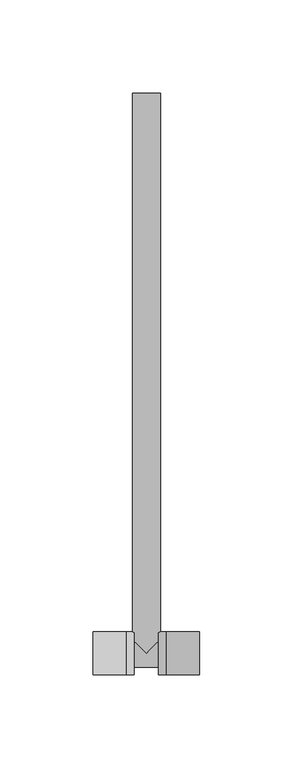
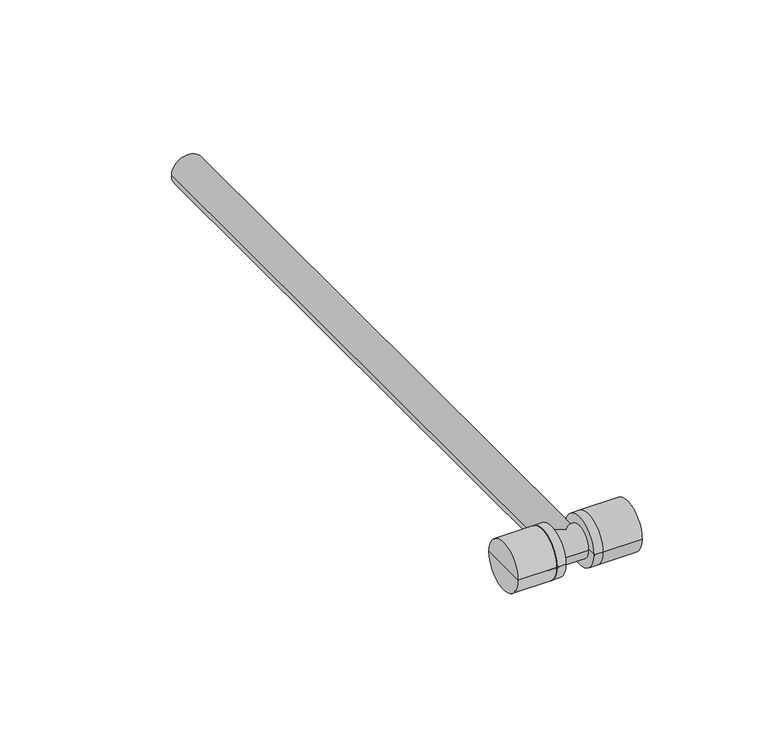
"""IFC4 building model written with IfcOpenShell, lengths in millimetres: pipe fitting geometry, KAN-therm Push 18x2 trójnik z rurą Cu15 L=300 : KAN-therm Push 18x2 trójnik z rurą Cu15 L=300."""

from ifc_helpers import new_model, si_unit, frame, origin, place, context, project, spatial, circle_curve, ellipse_curve, source, transform, mapped, element, save
from ifc_brep_helpers import plane_surface, cylinder_surface, advanced_brep


def pipe_fitting_58463357(model_context):
    return source(origin(), model_context, "Body", "AdvancedBrep", [
        advanced_brep(
        [(-10.5, -11.5, 0.0), (-10.5, 0.0, 0.0), (-10.5, 11.5, 0.0), (-6.5, -11.5, 0.0), (-6.5, 11.5, 0.0), (-6.5, 0.0, 0.0)],
        [
            (0, 1),
            (1, 2),
            (2, 0, circle_curve(frame((-10.5, 0.0, 0.0), z_axis=(-1.0, 0.0, 0.0), x_axis=(0.0, 1.0, 0.0)), 11.5)),
            (0, 2, circle_curve(frame((-10.5, 0.0, 0.0), z_axis=(-1.0, 0.0, 0.0), x_axis=(0.0, 1.0, 0.0)), 11.5)),
            (3, 0),
            (2, 4),
            (4, 3, circle_curve(frame((-6.5, 0.0, 0.0), z_axis=(-1.0, 0.0, 0.0), x_axis=(0.0, 1.0, 0.0)), 11.5)),
            (3, 4, circle_curve(frame((-6.5, 0.0, 0.0), z_axis=(-1.0, 0.0, 0.0), x_axis=(0.0, 1.0, 0.0)), 11.5)),
            (5, 3),
            (4, 5),
        ],
        [
            plane_surface(frame((-10.5, 0.0, 0.0), z_axis=(-1.0, 0.0, 0.0), x_axis=(0.0, 1.0, 0.0))),
            cylinder_surface(frame((-2005.5, 0.0, 0.0), z_axis=(1.0, 0.0, 0.0), x_axis=(0.0, 1.0, 0.0)), 11.5),
            plane_surface(frame((-6.5, 0.0, 0.0), z_axis=(1.0, 0.0, 0.0), x_axis=(0.0, 1.0, 0.0))),
        ],
        [
            (0, [[1, 2, 3]]),
            (0, [[-2, -1, 4]]),
            (1, [[5, -3, 6, 7]]),
            (1, [[-6, -4, -5, 8]]),
            (2, [[9, -7, 10]]),
            (2, [[-10, -8, -9]]),
        ],
    ),
        advanced_brep(
        [(-28.5, -11.5, 0.0), (-28.5, 0.0, 0.0), (-28.5, 11.5, 0.0), (-10.5, -11.5, 0.0), (-10.5, 11.5, 0.0), (-10.5, 0.0, 0.0)],
        [
            (0, 1),
            (1, 2),
            (2, 0, circle_curve(frame((-28.5, 0.0, 0.0), z_axis=(-1.0, 0.0, 0.0), x_axis=(0.0, 1.0, 0.0)), 11.5)),
            (0, 2, circle_curve(frame((-28.5, 0.0, 0.0), z_axis=(-1.0, 0.0, 0.0), x_axis=(0.0, 1.0, 0.0)), 11.5)),
            (3, 0),
            (2, 4),
            (4, 3, circle_curve(frame((-10.5, 0.0, 0.0), z_axis=(-1.0, 0.0, 0.0), x_axis=(0.0, 1.0, 0.0)), 11.5)),
            (3, 4, circle_curve(frame((-10.5, 0.0, 0.0), z_axis=(-1.0, 0.0, 0.0), x_axis=(0.0, 1.0, 0.0)), 11.5)),
            (5, 3),
            (4, 5),
        ],
        [
            plane_surface(frame((-28.5, 0.0, 0.0), z_axis=(-1.0, 0.0, 0.0), x_axis=(0.0, 1.0, 0.0))),
            cylinder_surface(frame((-2005.5, 0.0, 0.0), z_axis=(1.0, 0.0, 0.0), x_axis=(0.0, 1.0, 0.0)), 11.5),
            plane_surface(frame((-10.5, 0.0, 0.0), z_axis=(1.0, 0.0, 0.0), x_axis=(0.0, 1.0, 0.0))),
        ],
        [
            (0, [[1, 2, 3]]),
            (0, [[-2, -1, 4]]),
            (1, [[5, -3, 6, 7]]),
            (1, [[-6, -4, -5, 8]]),
            (2, [[9, -7, 10]]),
            (2, [[-10, -8, -9]]),
        ],
    ),
        advanced_brep(
        [(10.5, -11.5, 0.0), (10.5, 11.5, 0.0), (10.5, 0.0, 0.0), (6.5, -11.5, 0.0), (6.5, 11.5, 0.0), (6.5, 0.0, 0.0)],
        [
            (0, 1, circle_curve(frame((10.5, 0.0, 0.0), z_axis=(1.0, 0.0, 0.0), x_axis=(0.0, 1.0, 0.0)), 11.5)),
            (1, 2),
            (2, 0),
            (1, 0, circle_curve(frame((10.5, 0.0, 0.0), z_axis=(1.0, 0.0, 0.0), x_axis=(0.0, 1.0, 0.0)), 11.5)),
            (3, 4, circle_curve(frame((6.5, 0.0, 0.0), z_axis=(1.0, 0.0, 0.0), x_axis=(0.0, 1.0, 0.0)), 11.5)),
            (4, 1),
            (0, 3),
            (4, 3, circle_curve(frame((6.5, 0.0, 0.0), z_axis=(1.0, 0.0, 0.0), x_axis=(0.0, 1.0, 0.0)), 11.5)),
            (5, 4),
            (3, 5),
        ],
        [
            plane_surface(frame((10.5, 0.0, 0.0), z_axis=(1.0, 0.0, 0.0), x_axis=(0.0, 1.0, 0.0))),
            cylinder_surface(frame((2005.5, 0.0, 0.0), z_axis=(-1.0, 0.0, 0.0), x_axis=(0.0, 1.0, 0.0)), 11.5),
            plane_surface(frame((6.5, 0.0, 0.0), z_axis=(-1.0, 0.0, 0.0), x_axis=(0.0, 1.0, 0.0))),
        ],
        [
            (0, [[1, 2, 3]]),
            (0, [[4, -3, -2]]),
            (1, [[5, 6, -1, 7]]),
            (1, [[8, -7, -4, -6]]),
            (2, [[9, -5, 10]]),
            (2, [[-10, -8, -9]]),
        ],
    ),
        advanced_brep(
        [(28.5, -11.5, 0.0), (28.5, 11.5, 0.0), (28.5, 0.0, 0.0), (10.5, -11.5, 0.0), (10.5, 11.5, 0.0), (10.5, 0.0, 0.0)],
        [
            (0, 1, circle_curve(frame((28.5, 0.0, 0.0), z_axis=(1.0, 0.0, 0.0), x_axis=(0.0, 1.0, 0.0)), 11.5)),
            (1, 2),
            (2, 0),
            (1, 0, circle_curve(frame((28.5, 0.0, 0.0), z_axis=(1.0, 0.0, 0.0), x_axis=(0.0, 1.0, 0.0)), 11.5)),
            (3, 4, circle_curve(frame((10.5, 0.0, 0.0), z_axis=(1.0, 0.0, 0.0), x_axis=(0.0, 1.0, 0.0)), 11.5)),
            (4, 1),
            (0, 3),
            (4, 3, circle_curve(frame((10.5, 0.0, 0.0), z_axis=(1.0, 0.0, 0.0), x_axis=(0.0, 1.0, 0.0)), 11.5)),
            (5, 4),
            (3, 5),
        ],
        [
            plane_surface(frame((28.5, 0.0, 0.0), z_axis=(1.0, 0.0, 0.0), x_axis=(0.0, 1.0, 0.0))),
            cylinder_surface(frame((2005.5, 0.0, 0.0), z_axis=(-1.0, 0.0, 0.0), x_axis=(0.0, 1.0, 0.0)), 11.5),
            plane_surface(frame((10.5, 0.0, 0.0), z_axis=(-1.0, 0.0, 0.0), x_axis=(0.0, 1.0, 0.0))),
        ],
        [
            (0, [[1, 2, 3]]),
            (0, [[4, -3, -2]]),
            (1, [[5, 6, -1, 7]]),
            (1, [[8, -7, -4, -6]]),
            (2, [[9, -5, 10]]),
            (2, [[-10, -8, -9]]),
        ],
    ),
        advanced_brep(
        [(-7.5, 300.0, 0.0), (7.5, 300.0, 0.0), (7.5, 7.5, 0.0), (0.0, 0.0, -7.5), (-7.5, 7.5, 0.0), (0.0, 0.0, 7.5), (0.0, 300.0, 0.0), (10.5, -7.5, 0.0), (10.5, 7.5, 0.0), (10.5, 0.0, 0.0), (-10.5, 0.0, 0.0), (-10.5, 7.5, 0.0), (-10.5, -7.5, 0.0)],
        [
            (0, 1, circle_curve(frame((0.0, 300.0, 0.0), z_axis=(0.0, -1.0, 0.0), x_axis=(1.0, 0.0, 0.0)), 7.5)),
            (1, 2),
            (2, 3, ellipse_curve(frame((0.0, 0.0, 0.0), z_axis=(-0.7071067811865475, 0.7071067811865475, 0.0), x_axis=(0.7071067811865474, 0.7071067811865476, 0.0)), 10.6066017, 7.5)),
            (3, 4, ellipse_curve(frame((0.0, 0.0, 0.0), z_axis=(0.7071067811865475, 0.7071067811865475, 0.0), x_axis=(-0.7071067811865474, 0.7071067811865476, 0.0)), 10.6066017, 7.5)),
            (4, 0),
            (1, 0, circle_curve(frame((0.0, 300.0, 0.0), z_axis=(0.0, -1.0, 0.0), x_axis=(1.0, 0.0, 0.0)), 7.5)),
            (4, 5, ellipse_curve(frame((0.0, 0.0, 0.0), z_axis=(0.7071067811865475, 0.7071067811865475, 0.0), x_axis=(-0.7071067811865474, 0.7071067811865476, 0.0)), 10.6066017, 7.5)),
            (5, 2, ellipse_curve(frame((0.0, 0.0, 0.0), z_axis=(-0.7071067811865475, 0.7071067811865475, 0.0), x_axis=(0.7071067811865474, 0.7071067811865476, 0.0)), 10.6066017, 7.5)),
            (0, 6),
            (6, 1),
            (7, 8, circle_curve(frame((10.5, 0.0, 0.0), z_axis=(1.0, 0.0, 0.0), x_axis=(0.0, 1.0, 0.0)), 7.5)),
            (8, 9),
            (9, 7),
            (8, 7, circle_curve(frame((10.5, 0.0, 0.0), z_axis=(1.0, 0.0, 0.0), x_axis=(0.0, 1.0, 0.0)), 7.5)),
            (10, 11),
            (11, 12, circle_curve(frame((-10.5, 0.0, 0.0), z_axis=(-1.0, 0.0, 0.0), x_axis=(0.0, 1.0, 0.0)), 7.5)),
            (12, 10),
            (12, 11, circle_curve(frame((-10.5, 0.0, 0.0), z_axis=(-1.0, 0.0, 0.0), x_axis=(0.0, 1.0, 0.0)), 7.5)),
            (7, 12),
            (11, 4),
            (2, 8),
        ],
        [
            cylinder_surface(frame((0.0, 2000.0, 0.0), z_axis=(0.0, 1.0, 0.0), x_axis=(1.0, 0.0, 0.0)), 7.5),
            plane_surface(frame((0.0, 300.0, 0.0), z_axis=(0.0, 1.0, 0.0), x_axis=(1.0, 0.0, 0.0))),
            plane_surface(frame((10.5, 0.0, 0.0), z_axis=(1.0, 0.0, 0.0), x_axis=(0.0, 1.0, 0.0))),
            plane_surface(frame((-10.5, 0.0, 0.0), z_axis=(-1.0, 0.0, 0.0), x_axis=(0.0, 1.0, 0.0))),
            cylinder_surface(frame((2004.5, 0.0, 0.0), z_axis=(-1.0, 0.0, 0.0), x_axis=(0.0, 1.0, 0.0)), 7.5),
        ],
        [
            (0, [[1, 2, 3, 4, 5]]),
            (0, [[6, -5, 7, 8, -2]]),
            (1, [[-1, 9, 10]]),
            (1, [[-6, -10, -9]]),
            (2, [[11, 12, 13]]),
            (2, [[-12, 14, -13]]),
            (3, [[15, 16, 17]]),
            (3, [[-15, -17, 18]]),
            (4, [[-11, 19, -16, 20, -4, -3, 21]]),
            (4, [[-14, -21, -8, -7, -20, -18, -19]]),
        ],
    ),
    ])


if __name__ == "__main__":
    model = new_model("IFC4")
    model_context = context("Model", 3, world=origin())
    ifc_project = project(units=[si_unit("LENGTHUNIT", "METRE", prefix="MILLI")], contexts=[model_context])
    site = spatial("IfcSite", under=ifc_project)
    building = spatial("IfcBuilding", under=site)
    placement = place(None, origin())
    pipe_fitting_shape = pipe_fitting_58463357(model_context)
    element("IfcPipeFitting", 1, ObjectType="KAN-therm Push 18x2 trójnik z rurą Cu15 L=300 : KAN-therm Push 18x2 trójnik z rurą Cu15 L=300", at=placement, inside=building, context=model_context, shape_type="MappedRepresentation", body=[
        mapped(pipe_fitting_shape, transform((0.0, 0.0, 0.0), x_axis=(1.0, 0.0, 0.0), y_axis=(0.0, 1.0, 0.0), z_axis=(0.0, 0.0, 1.0))),
    ])
    save(model, "model.ifc")
